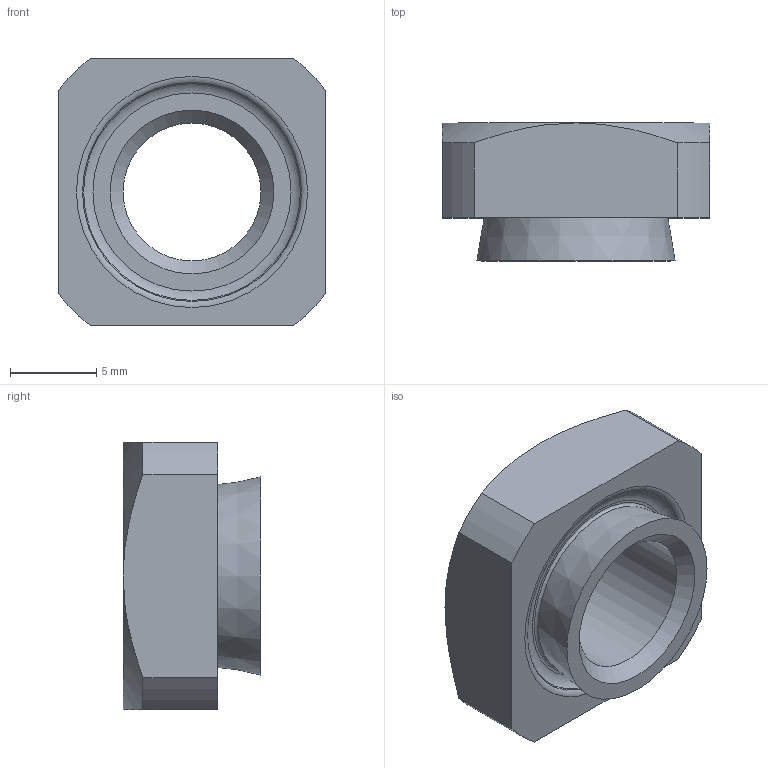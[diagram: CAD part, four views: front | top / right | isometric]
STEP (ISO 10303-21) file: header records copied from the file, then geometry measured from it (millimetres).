
FILE_DESCRIPTION(/* description */ (''),/* implementation_level */ '2;1');
FILE_NAME(/* name */ 'D:\Sukhmani\Fastit\HN Nut\HN 8-3.0.stp',/* time_stamp */ '2024-03-14T12:23:08+06:00',/* author */ ('edc.sukhmani'),/* organization */ (''),/* preprocessor_version */ 'ST-DEVELOPER v18.1',/* originating_system */ 'Autodesk Inventor 2022',/* authorisation */ '');
FILE_SCHEMA (('AUTOMOTIVE_DESIGN { 1 0 10303 214 3 1 1 }'));
Length unit declared in the file: millimetre
Products named in the file (1): HN 8-3.0
Bounding box: 15.52 x 8 x 15.52 mm (x, y, z)
Volume: 1071.2 mm3; surface area: 969.1 mm2
Topology: 1 solids, 1 shells, 25 faces, 58 edges, 37 vertices
Faces by surface type: cone 8, plane 8, cylinder 6, torus 3
Full cylindrical faces by diameter (mm): 8 x1, 9.5 x1
Entity records: 763 total; most frequent: CARTESIAN_POINT 137, DIRECTION 134, ORIENTED_EDGE 116, EDGE_CURVE 58, AXIS2_PLACEMENT_3D 58, VERTEX_POINT 37, CIRCLE 32, EDGE_LOOP 29
